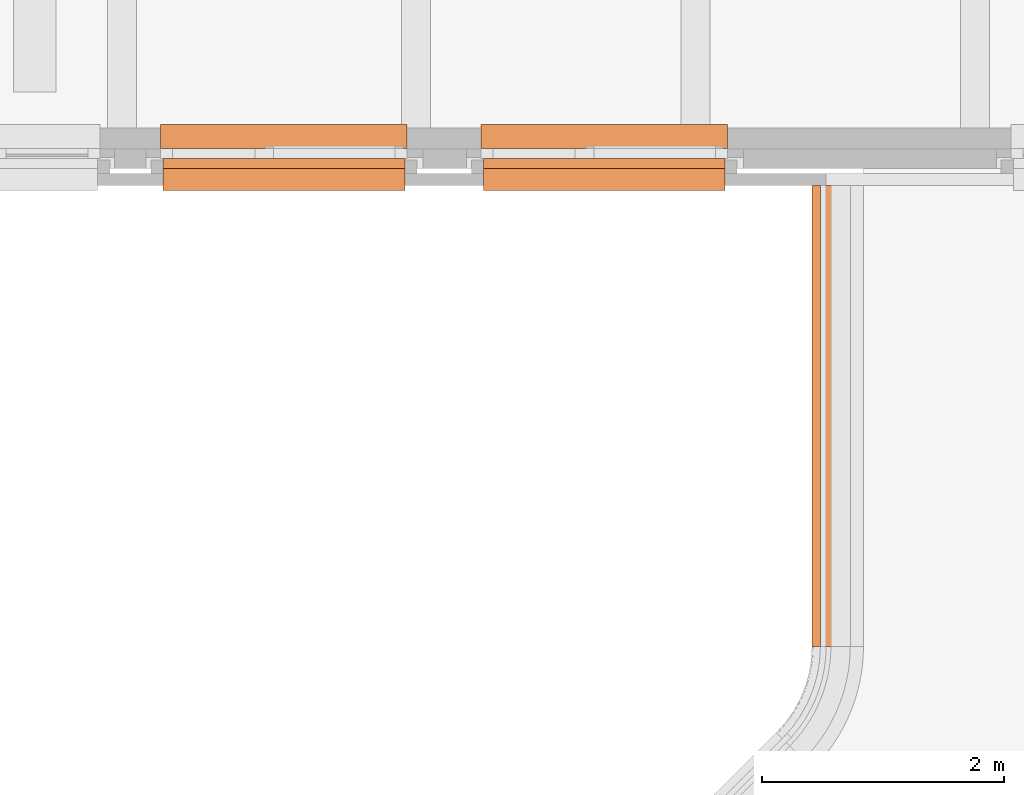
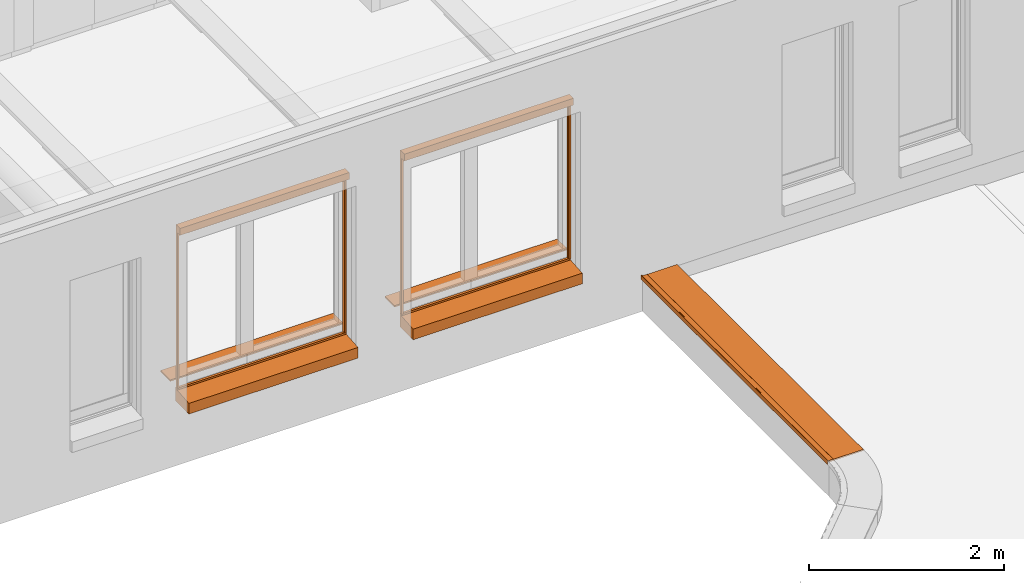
# One storey, part 115 of 128: 8 proxies.
"""IFC2X3 building model written with IfcOpenShell, lengths in millimetres."""

from ifc_helpers import new_model, entity, si_unit, converted_unit, derived_unit, direction, frame, frame_2d, origin, origin_2d_with_axis, place, context, subcontext, project, spatial, polyline, circle_curve, parameter, trimmed, segment, composite_curve, rectangle, outline, extrude, source, transform, mapped, material, material_list, type_object, type_shapes, element, save


model = new_model("IFC2X3")

# Units and contexts
model_context = context("Model", 3, precision=0.01, world=origin(), true_north=direction((6.123031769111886e-17, 1.0)))
body_context = subcontext(model_context, "Body", "Model", "MODEL_VIEW")
ifc_project = project(units=[si_unit("LENGTHUNIT", "METRE", prefix="MILLI"), si_unit("AREAUNIT", "SQUARE_METRE"), si_unit("VOLUMEUNIT", "CUBIC_METRE"), converted_unit("PLANEANGLEUNIT", "DEGREE", entity("IfcRatioMeasure", 0.017453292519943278), si_unit("PLANEANGLEUNIT", "RADIAN"), dimensions=[0, 0, 0, 0, 0, 0, 0]), si_unit("MASSUNIT", "GRAM", prefix="KILO"), derived_unit("MASSDENSITYUNIT", [(si_unit("MASSUNIT", "GRAM", prefix="KILO"), 1), (si_unit("LENGTHUNIT", "METRE"), -3)]), derived_unit("IONCONCENTRATIONUNIT", [(si_unit("MASSUNIT", "GRAM", prefix="KILO"), 1), (si_unit("LENGTHUNIT", "METRE"), -3)]), derived_unit("MOMENTOFINERTIAUNIT", [(si_unit("LENGTHUNIT", "METRE"), 4)]), si_unit("TIMEUNIT", "SECOND"), si_unit("FREQUENCYUNIT", "HERTZ"), si_unit("THERMODYNAMICTEMPERATUREUNIT", "DEGREE_CELSIUS"), derived_unit("THERMALTRANSMITTANCEUNIT", [(si_unit("MASSUNIT", "GRAM", prefix="KILO"), 1), (si_unit("THERMODYNAMICTEMPERATUREUNIT", "KELVIN"), -1), (si_unit("TIMEUNIT", "SECOND"), -3)]), derived_unit("THERMALCONDUCTANCEUNIT", [(si_unit("MASSUNIT", "GRAM", prefix="KILO"), 1), (si_unit("THERMODYNAMICTEMPERATUREUNIT", "KELVIN"), -1), (si_unit("TIMEUNIT", "SECOND"), -3), (si_unit("LENGTHUNIT", "METRE"), 1)]), derived_unit("VOLUMETRICFLOWRATEUNIT", [(si_unit("LENGTHUNIT", "METRE"), 3), (si_unit("TIMEUNIT", "SECOND"), -1)]), derived_unit("MASSFLOWRATEUNIT", [(si_unit("MASSUNIT", "GRAM", prefix="KILO"), 1), (si_unit("TIMEUNIT", "SECOND"), -1)]), derived_unit("ROTATIONALFREQUENCYUNIT", [(si_unit("TIMEUNIT", "SECOND"), -1)]), si_unit("ELECTRICCURRENTUNIT", "AMPERE"), si_unit("ELECTRICVOLTAGEUNIT", "VOLT"), si_unit("POWERUNIT", "WATT"), si_unit("FORCEUNIT", "NEWTON", prefix="KILO"), si_unit("ILLUMINANCEUNIT", "LUX"), si_unit("LUMINOUSFLUXUNIT", "LUMEN"), si_unit("LUMINOUSINTENSITYUNIT", "CANDELA"), derived_unit("USERDEFINED", [(si_unit("MASSUNIT", "GRAM", prefix="KILO"), -1), (si_unit("LENGTHUNIT", "METRE"), -2), (si_unit("TIMEUNIT", "SECOND"), 3), (si_unit("LUMINOUSFLUXUNIT", "LUMEN"), 1)]), derived_unit("USERDEFINED", [(si_unit("MASSUNIT", "GRAM", prefix="KILO"), 1), (si_unit("TIMEUNIT", "SECOND"), -3), (si_unit("LENGTHUNIT", "METRE"), 3), (si_unit("ELECTRICCURRENTUNIT", "AMPERE"), -2)]), derived_unit("SOUNDPOWERUNIT", [(si_unit("MASSUNIT", "GRAM", prefix="KILO"), 1), (si_unit("TIMEUNIT", "SECOND"), -3), (si_unit("LENGTHUNIT", "METRE"), 2)]), derived_unit("SOUNDPRESSUREUNIT", [(si_unit("MASSUNIT", "GRAM", prefix="KILO"), 1), (si_unit("LENGTHUNIT", "METRE"), -1), (si_unit("TIMEUNIT", "SECOND"), -2)]), derived_unit("LINEARVELOCITYUNIT", [(si_unit("LENGTHUNIT", "METRE"), 1), (si_unit("TIMEUNIT", "SECOND"), -1)]), si_unit("PRESSUREUNIT", "PASCAL"), derived_unit("USERDEFINED", [(si_unit("MASSUNIT", "GRAM", prefix="KILO"), 1), (si_unit("LENGTHUNIT", "METRE"), -2), (si_unit("TIMEUNIT", "SECOND"), -2)]), derived_unit("LINEARFORCEUNIT", [(si_unit("MASSUNIT", "GRAM", prefix="KILO"), 1), (si_unit("TIMEUNIT", "SECOND"), -2)]), derived_unit("PLANARFORCEUNIT", [(si_unit("MASSUNIT", "GRAM", prefix="KILO"), 1), (si_unit("LENGTHUNIT", "METRE"), -1), (si_unit("TIMEUNIT", "SECOND"), -2)]), derived_unit("SPECIFICHEATCAPACITYUNIT", [(si_unit("THERMODYNAMICTEMPERATUREUNIT", "KELVIN"), -1), (si_unit("LENGTHUNIT", "METRE"), 2), (si_unit("TIMEUNIT", "SECOND"), -2)]), derived_unit("HEATINGVALUEUNIT", [(si_unit("LENGTHUNIT", "METRE"), 2), (si_unit("TIMEUNIT", "SECOND"), -2)]), derived_unit("VAPORPERMEABILITYUNIT", [(si_unit("LENGTHUNIT", "METRE"), -1), (si_unit("TIMEUNIT", "SECOND"), 1)]), derived_unit("DYNAMICVISCOSITYUNIT", [(si_unit("MASSUNIT", "GRAM", prefix="KILO"), 1), (si_unit("TIMEUNIT", "SECOND"), -1), (si_unit("LENGTHUNIT", "METRE"), -1)]), derived_unit("THERMALEXPANSIONCOEFFICIENTUNIT", [(si_unit("THERMODYNAMICTEMPERATUREUNIT", "KELVIN"), -1)]), derived_unit("MODULUSOFELASTICITYUNIT", [(si_unit("MASSUNIT", "GRAM", prefix="KILO"), 1), (si_unit("LENGTHUNIT", "METRE"), -1), (si_unit("TIMEUNIT", "SECOND"), -2)]), derived_unit("ISOTHERMALMOISTURECAPACITYUNIT", [(si_unit("LENGTHUNIT", "METRE"), 3), (si_unit("MASSUNIT", "GRAM", prefix="KILO"), -1)]), derived_unit("MOISTUREDIFFUSIVITYUNIT", [(si_unit("TIMEUNIT", "SECOND"), -1), (si_unit("LENGTHUNIT", "METRE"), 2)])], contexts=[model_context])

# Site, building, storey
site_placement = place(None, frame((0.0, 300.0, 0.0)))
site = spatial("IfcSite", under=ifc_project, at=site_placement, Name="<Kadastrale nummers>", CompositionType="ELEMENT")
building_placement = place(site_placement, origin())
building = spatial("IfcBuilding", under=site, at=building_placement, CompositionType="ELEMENT")
storey_placement = place(building_placement, frame((0.0, 0.0, 3560.0000331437)))
storey = spatial("IfcBuildingStorey", under=building, at=storey_placement, Name="01 eerste verdieping", CompositionType="ELEMENT", Elevation=3560.0000331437)

# Proxies
ifc_material_1 = material(Name="ISR_Multiplex")
building_element_proxy_type_1 = type_object("IfcBuildingElementProxyType", Name="NLRS_42_GM_WBP_plaat:18x409", PredefinedType="NOTDEFINED", material=ifc_material_1)
shared_shape_1 = source(origin(), body_context, "Body", "SweptSolid", [
    extrude(rectangle(XDim=3813.09683106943, YDim=408.99999999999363, at=frame_2d((-4.433786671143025e-12, -2.1600499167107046e-12), x_axis=(1.0, 0.0))), frame((31629.50000000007, 35818.451584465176, 4075.0), z_axis=(0.0, 0.0, 1.0), x_axis=(0.0, 1.0, 0.0)), (0.0, 0.0, 1.0), 18.000000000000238),
])
type_shapes(building_element_proxy_type_1, [shared_shape_1])
proxy_1_placement = place(storey_placement, frame((0.0, 0.0, -3560.0000331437)))
element("IfcBuildingElementProxy", 1, at=proxy_1_placement, inside=storey, type_object=building_element_proxy_type_1, material=ifc_material_1, Name="NLRS_42_GM_WBP_plaat:18x409", ObjectType="NLRS_42_GM_WBP_plaat:18x409", context=body_context, shape_type="MappedRepresentation", body=[
    mapped(shared_shape_1, transform((0.0, 0.0, 0.0), scale=1.0)),
])
ifc_material_2 = material(Name="STAAL_RAL 7006")
building_element_proxy_type_2 = type_object("IfcBuildingElementProxyType", Name="NLRS_42_GM_WPB_dakrand_gen_ISR:dakrand_gen", PredefinedType="NOTDEFINED", material=ifc_material_2)
shared_shape_2 = source(origin(), body_context, "Body", "SweptSolid", [
    extrude(outline(composite_curve([segment(trimmed(circle_curve(frame_2d((14.558406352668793, -7.057262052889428), x_axis=(-1.0, 0.0)), 1.0000000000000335), [parameter(359.9999999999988)], [parameter(89.99999999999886)], True, "PARAMETER"), False, "CONTINUOUS"), segment(polyline([(13.558406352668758, -7.057262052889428), (13.558406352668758, 55.442737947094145)]), True, "CONTINUOUS"), segment(polyline([(13.558406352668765, 55.44273794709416), (12.55840635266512, 59.942737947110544)]), True, "CONTINUOUS"), segment(trimmed(circle_curve(frame_2d((12.05840635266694, 59.94273794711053), x_axis=(-1.0, 0.0)), 0.499999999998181), [parameter(180.00000000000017)], [parameter(0.0)], True, "PARAMETER"), True, "CONTINUOUS"), segment(polyline([(11.558406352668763, 59.94273794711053), (11.558406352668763, -2.057262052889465)]), True, "CONTINUOUS"), segment(trimmed(circle_curve(frame_2d((10.558406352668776, -2.0572620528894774), x_axis=(0.0, -1.0)), 0.9999999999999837), [parameter(1.8828883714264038e-12)], [parameter(90.00000000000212)], True, "PARAMETER"), False, "CONTINUOUS"), segment(polyline([(10.55840635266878, -3.0572620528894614), (9.558406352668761, -3.0572620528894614)]), True, "CONTINUOUS"), segment(trimmed(circle_curve(frame_2d((9.55840635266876, -4.057262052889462), x_axis=(0.0, -1.0)), 1.0), [parameter(180.00000000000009)], [parameter(359.9999999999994)], True, "PARAMETER"), True, "CONTINUOUS"), segment(polyline([(9.558406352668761, -5.057262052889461), (10.558406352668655, -5.057262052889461)]), True, "CONTINUOUS"), segment(trimmed(circle_curve(frame_2d((10.558406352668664, -6.057262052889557), x_axis=(1.0, 0.0)), 1.0000000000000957), [parameter(359.9999999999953)], [parameter(89.99999999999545)], True, "PARAMETER"), False, "CONTINUOUS"), segment(polyline([(11.558406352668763, -6.057262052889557), (11.558406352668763, -7.057262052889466)]), True, "CONTINUOUS"), segment(trimmed(circle_curve(frame_2d((10.558406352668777, -7.057262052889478), x_axis=(0.0, -1.0)), 0.999999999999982), [parameter(1.3739996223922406e-12)], [parameter(90.00000000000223)], True, "PARAMETER"), False, "CONTINUOUS"), segment(polyline([(10.558406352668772, -8.057262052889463), (-12.441593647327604, -8.057262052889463)]), True, "CONTINUOUS"), segment(trimmed(circle_curve(frame_2d((-12.441593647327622, -7.057262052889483), x_axis=(-1.0, 0.0)), 0.9999999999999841), [parameter(1.8828883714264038e-12)], [parameter(90.00000000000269)], True, "PARAMETER"), False, "CONTINUOUS"), segment(polyline([(-13.441593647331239, -7.057262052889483), (-13.441593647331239, -6.0572620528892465)]), True, "CONTINUOUS"), segment(trimmed(circle_curve(frame_2d((-12.44159364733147, -6.057262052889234), x_axis=(0.0, 1.0)), 0.9999999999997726), [parameter(1.353644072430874e-11)], [parameter(90.00000000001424)], True, "PARAMETER"), False, "CONTINUOUS"), segment(polyline([(-12.441593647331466, -5.057262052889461), (-11.441593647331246, -5.057262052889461)]), True, "CONTINUOUS"), segment(trimmed(circle_curve(frame_2d((-11.441593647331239, -4.057262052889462), x_axis=(0.0, 1.0)), 1.0), [parameter(179.99999999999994)], [parameter(359.9999999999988)], True, "PARAMETER"), True, "CONTINUOUS"), segment(polyline([(-11.441593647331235, -3.0572620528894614), (-14.441593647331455, -3.0572620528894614)]), True, "CONTINUOUS"), segment(trimmed(circle_curve(frame_2d((-14.441593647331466, -4.057262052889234), x_axis=(-1.0, 0.0)), 0.9999999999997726), [parameter(269.9999999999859)], [parameter(359.99999999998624)], True, "PARAMETER"), True, "CONTINUOUS"), segment(polyline([(-15.4415936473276, -4.057262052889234), (-15.4415936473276, -7.057262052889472)]), True, "CONTINUOUS"), segment(trimmed(circle_curve(frame_2d((-16.441593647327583, -7.0572620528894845), x_axis=(0.0, -1.0)), 0.9999999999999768), [parameter(2.1882216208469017e-12)], [parameter(90.00000000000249)], True, "PARAMETER"), False, "CONTINUOUS"), segment(polyline([(-16.44159364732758, -8.057262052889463), (-25.5319175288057, -8.057262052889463)]), True, "CONTINUOUS"), segment(trimmed(circle_curve(frame_2d((-25.531917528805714, -7.057262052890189), x_axis=(-0.9659258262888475, 0.2588190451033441)), 0.999999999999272), [parameter(7.394153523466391e-11)], [parameter(105.00000000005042)], True, "PARAMETER"), False, "CONTINUOUS"), segment(polyline([(-26.49784335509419, -6.798443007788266), (-24.494754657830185, 0.6771857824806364)]), True, "CONTINUOUS"), segment(trimmed(circle_curve(frame_2d((-25.460680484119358, 0.9360048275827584), x_axis=(-0.9659258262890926, 0.2588190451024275)), 1.0000000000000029), [parameter(180.0000000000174)], [parameter(8.142219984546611e-12)], True, "PARAMETER"), True, "CONTINUOUS"), segment(polyline([(-26.426606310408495, 1.1948238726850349), (-29.104294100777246, -8.79844300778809)]), True, "CONTINUOUS"), segment(trimmed(circle_curve(frame_2d((-28.138368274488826, -9.05726205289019), x_axis=(0.0, -1.0)), 0.9999999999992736), [parameter(255.000000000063)], [parameter(4.8700653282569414e-11)], True, "PARAMETER"), True, "CONTINUOUS"), segment(polyline([(-28.138368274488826, -10.057262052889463), (24.558406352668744, -10.057262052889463)]), True, "CONTINUOUS"), segment(trimmed(circle_curve(frame_2d((24.55840635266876, -9.057262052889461), x_axis=(1.0, 0.0)), 0.999999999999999), [parameter(269.9999999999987)], [parameter(359.99999999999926)], True, "PARAMETER"), True, "CONTINUOUS"), segment(polyline([(25.55840635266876, -9.057262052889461), (25.55840635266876, 0.9427379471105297)]), True, "CONTINUOUS"), segment(trimmed(circle_curve(frame_2d((24.55840635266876, 0.9427379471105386), x_axis=(-1.0, 0.0)), 1.000000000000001), [parameter(179.99999999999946)], [parameter(359.99999999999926)], True, "PARAMETER"), True, "CONTINUOUS"), segment(polyline([(23.55840635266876, 0.9427379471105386), (23.55840635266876, -7.057262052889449)]), True, "CONTINUOUS"), segment(trimmed(circle_curve(frame_2d((22.55840635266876, -7.057262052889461), x_axis=(0.0, -1.0)), 1.0), [parameter(2.544443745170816e-13)], [parameter(90.00000000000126)], True, "PARAMETER"), False, "CONTINUOUS"), segment(polyline([(22.55840635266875, -8.057262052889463), (14.558406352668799, -8.057262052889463)]), True, "CONTINUOUS")], self_intersect=False)), frame((-1906.548415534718, 10.05726205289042, -11.558406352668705), z_axis=(-1.0, 0.0, 0.0), x_axis=(0.0, 0.0, 1.0)), (0.0, 0.0, -1.0), 3813.096831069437),
])
type_shapes(building_element_proxy_type_2, [shared_shape_2])
proxy_2_placement = place(storey_placement, frame((31408.0, 35818.45158446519, 532.9999668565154), z_axis=(0.0, 0.0, 1.0), x_axis=(0.0, -1.0, 0.0)))
element("IfcBuildingElementProxy", 2, at=proxy_2_placement, inside=storey, type_object=building_element_proxy_type_2, material=ifc_material_2, Name="NLRS_42_GM_WPB_dakrand_gen_ISR:dakrand_gen", ObjectType="NLRS_42_GM_WPB_dakrand_gen_ISR:dakrand_gen", context=body_context, shape_type="MappedRepresentation", body=[
    mapped(shared_shape_2, transform((0.0, 0.0, 0.0), scale=1.0)),
])
ifc_material_3 = material(Name="ISR_Beton_prefab")
building_element_proxy_type_3 = type_object("IfcBuildingElementProxyType", Name="29_DAT_Prefab betonnen waterslag kort:29_DAT_Prefab betonnen waterslag kort", PredefinedType="NOTDEFINED", material=ifc_material_3)
shared_shape_3 = source(origin(), body_context, "Body", "SweptSolid", [
    extrude(outline(composite_curve([segment(polyline([(-137.5, -95.62465990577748), (-107.49999999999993, -95.62465990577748)]), True, "CONTINUOUS"), segment(polyline([(-107.49999999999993, -95.62465990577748), (-107.49999999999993, -73.62465990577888)]), True, "CONTINUOUS"), segment(polyline([(-107.49999999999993, -73.62465990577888), (132.50000000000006, -52.627380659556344)]), True, "CONTINUOUS"), segment(polyline([(132.5, -52.627380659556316), (132.5, 79.37534009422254)]), True, "CONTINUOUS"), segment(polyline([(132.5, 79.37534009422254), (117.49999999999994, 79.37534009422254)]), True, "CONTINUOUS"), segment(trimmed(circle_curve(frame_2d((112.49999999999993, 79.37534009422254), x_axis=(1.0, 0.0)), 5.000000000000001), [parameter(179.99999999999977)], [parameter(359.9999999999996)], True, "PARAMETER"), False, "CONTINUOUS"), segment(polyline([(107.49999999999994, 79.37534009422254), (-137.5, 79.37534009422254)]), True, "CONTINUOUS"), segment(polyline([(-137.5, 79.37534009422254), (-137.5, -95.62465990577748)]), True, "CONTINUOUS")], self_intersect=False)), frame((0.0, 82.50000000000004, -95.62465990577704), z_axis=(1.0, 0.0, 0.0), x_axis=(0.0, -1.0, 0.0)), (0.0, 0.0, 1.0), 2000.0000000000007),
])
type_shapes(building_element_proxy_type_3, [shared_shape_3])
for number, where, name in (
    (3, (28690.0, 37735.0, 890.000001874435), "29_DAT_Prefab betonnen waterslag kort:29_DAT_Prefab betonnen waterslag kort"),
    (4, (26040.0, 37735.0, 890.0000018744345), "29_DAT_Prefab betonnen waterslag kort:29_DAT_Prefab betonnen waterslag kort"),
):
    element("IfcBuildingElementProxy", number, at=place(storey_placement, frame(where)), inside=storey, type_object=building_element_proxy_type_3, material=ifc_material_3, Name=name, ObjectType="29_DAT_Prefab betonnen waterslag kort:29_DAT_Prefab betonnen waterslag kort", context=body_context, shape_type="MappedRepresentation", body=[
        mapped(shared_shape_3, transform((0.0, 0.0, 0.0), scale=1.0)),
    ])
ifc_material_4 = material(Name="<Unnamed>")
ifc_material_list = material_list([ifc_material_2, ifc_material_4])
building_element_proxy_type_4 = type_object("IfcBuildingElementProxyType", Name="31_DAT_Screen_zonwering_bak85:31_DAT_Screen_zonwering_bak85", PredefinedType="NOTDEFINED", material=ifc_material_list)
shared_shape_4 = source(origin(), body_context, "Body", "SweptSolid", [
    extrude(outline(polyline([(-60.69864841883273, -53.573897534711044), (20.695945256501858, -53.573897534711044), (20.695945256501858, 1.1216926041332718), (22.501351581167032, 1.1216926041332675), (22.501351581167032, 24.626102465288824), (17.501351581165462, 24.626102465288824), (17.501351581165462, 27.826102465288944), (-60.69864841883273, 27.826102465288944), (-60.69864841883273, -53.573897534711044)])), frame((1998.0, -29.62610246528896, 2422.501351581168), z_axis=(1.0, 0.0, 0.0), x_axis=(0.0, 0.0, -1.0)), (0.0, 0.0, 1.0), 1.9999999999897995),
    extrude(outline(polyline([(-55.83243227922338, -51.08259835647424), (29.167567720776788, -51.08259835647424), (29.167567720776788, 5.412991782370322), (27.362161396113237, 5.412991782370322), (27.362161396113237, -49.28259835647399), (-54.032432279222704, -49.28259835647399), (-54.032432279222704, 32.117401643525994), (24.16756772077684, 32.117401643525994), (24.16756772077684, 28.91740164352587), (29.167567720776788, 28.91740164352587), (29.167567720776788, 33.917401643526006), (-55.83243227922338, 33.917401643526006), (-55.83243227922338, -51.08259835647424)])), frame((0.0, -33.917401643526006, 2429.1675677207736), z_axis=(1.0, 0.0, 0.0), x_axis=(0.0, 0.0, -1.0)), (0.0, 0.0, 1.0), 1999.999999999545),
    extrude(outline(polyline([(-60.69864841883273, -53.573897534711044), (20.695945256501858, -53.573897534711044), (20.695945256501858, 1.1216926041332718), (22.501351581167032, 1.1216926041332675), (22.501351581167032, 24.626102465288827), (17.501351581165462, 24.626102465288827), (17.501351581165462, 27.826102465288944), (-60.69864841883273, 27.826102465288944), (-60.69864841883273, -53.573897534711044)])), frame((0.0, -29.62610246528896, 2422.501351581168), z_axis=(1.0, 0.0, 0.0), x_axis=(0.0, 0.0, -1.0)), (0.0, 0.0, 1.0), 1.999999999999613),
    extrude(rectangle(XDim=1959.9999999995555, YDim=1.163311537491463, at=frame_2d((0.0, -2.1094237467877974e-15), x_axis=(1.0, 0.0))), frame((1000.0, -20.037293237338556, 2382.3606486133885)), (0.0, 0.0, 1.0), 17.639351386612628),
    extrude(outline(composite_curve([segment(polyline([(-7.5023279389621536, -23.023758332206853), (7.4976720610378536, -23.023758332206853)]), True, "CONTINUOUS"), segment(trimmed(circle_curve(frame_2d((7.49767206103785, -21.523758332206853), x_axis=(0.0, -1.0)), 1.4999999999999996), [parameter(359.99999999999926)], [parameter(90.00000000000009)], True, "PARAMETER"), True, "CONTINUOUS"), segment(polyline([(8.997672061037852, -21.523758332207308), (8.997672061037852, 8.976241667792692)]), True, "CONTINUOUS"), segment(trimmed(circle_curve(frame_2d((5.9976720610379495, 8.976241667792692), x_axis=(0.0, -1.0)), 3.0), [parameter(90.00000000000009)], [parameter(172.84454900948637)], True, "PARAMETER"), True, "CONTINUOUS"), segment(polyline([(6.3713574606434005, 11.952877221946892), (2.2320908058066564, 12.470504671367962)]), True, "CONTINUOUS"), segment(trimmed(circle_curve(frame_2d((2.1399803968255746, 11.733933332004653), x_axis=(0.0, -1.0)), 0.7423083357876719), [parameter(172.87199730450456)], [parameter(323.5235343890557)], True, "PARAMETER"), True, "CONTINUOUS"), segment(trimmed(circle_curve(frame_2d((-0.002327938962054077, 8.976241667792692), x_axis=(0.0, -1.0)), 2.75), [parameter(217.47327986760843)], [parameter(141.78969998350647)], True, "PARAMETER"), False, "CONTINUOUS"), segment(trimmed(circle_curve(frame_2d((-2.1446362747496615, 11.733933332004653), x_axis=(0.0, -1.0)), 0.7423083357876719), [parameter(39.207114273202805)], [parameter(187.12800269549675)], True, "PARAMETER"), True, "CONTINUOUS"), segment(polyline([(-2.2367466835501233, 12.470504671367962), (-6.376013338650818, 11.952877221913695)]), True, "CONTINUOUS"), segment(trimmed(circle_curve(frame_2d((-6.002327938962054, 8.976241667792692), x_axis=(0.0, -1.0)), 3.0), [parameter(187.1554509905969)], [parameter(269.9999999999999)], True, "PARAMETER"), True, "CONTINUOUS"), segment(polyline([(-9.002327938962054, 8.976241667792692), (-9.002327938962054, -21.523758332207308)]), True, "CONTINUOUS"), segment(trimmed(circle_curve(frame_2d((-7.50232793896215, -21.523758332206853), x_axis=(0.0, -1.0)), 1.5000000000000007), [parameter(269.9999999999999)], [parameter(359.9999999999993)], True, "PARAMETER"), True, "CONTINUOUS")], self_intersect=False)), frame((20.0, -19.997672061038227, 2375.3844069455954), z_axis=(1.0, 0.0, 0.0), x_axis=(0.0, 1.0, 0.0)), (0.0, 0.0, 1.0), 1959.999999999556),
    extrude(outline(polyline([(-14.638298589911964, -16.231574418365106), (-13.138298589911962, -16.231574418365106), (-13.138298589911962, 12.23272922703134), (-6.116685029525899, 12.23272922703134), (-6.116685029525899, -6.231574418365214), (-1.116685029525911, -6.231574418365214), (-1.116685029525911, -4.769580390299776), (-4.579546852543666, -4.769580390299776), (-4.579546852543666, 12.23272922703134), (13.86611127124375, 12.23272922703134), (13.86611127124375, -4.769580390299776), (10.36170141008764, -4.769580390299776), (10.36170141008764, -6.2315744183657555), (15.36170141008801, -6.2315744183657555), (15.36170141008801, 13.7684255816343), (-14.638298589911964, 13.7684255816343), (-14.638298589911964, -16.231574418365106)])), frame((1986.2315744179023, -14.638298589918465, 450.0), z_axis=(0.0, 0.0, 1.0), x_axis=(0.0, -1.0, 0.0)), (0.0, 0.0, 1.0), 1950.0000000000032),
    extrude(outline(polyline([(-16.231574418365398, -14.638298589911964), (13.768425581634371, -14.638298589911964), (13.76842558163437, 15.361701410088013), (-6.231574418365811, 15.361701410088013), (-6.231574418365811, 10.361701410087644), (-4.769580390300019, 10.361701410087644), (-4.769580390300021, 13.866111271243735), (12.2327292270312, 13.866111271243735), (12.2327292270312, -4.57954685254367), (-4.769580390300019, -4.57954685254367), (-4.769580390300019, -1.1166850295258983), (-6.231574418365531, -1.1166850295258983), (-6.231574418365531, -6.116685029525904), (12.232729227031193, -6.116685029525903), (12.232729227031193, -13.138298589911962), (-16.231574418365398, -13.138298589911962), (-16.231574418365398, -14.638298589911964)])), frame((13.768425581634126, -14.638298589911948, 450.0), z_axis=(0.0, 0.0, 1.0), x_axis=(-1.0, 0.0, 0.0)), (0.0, 0.0, 1.0), 1950.0000000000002),
])
type_shapes(building_element_proxy_type_4, [shared_shape_4])
for number, where, name in (
    (5, (28690.0, 37948.99862327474, 440.0000018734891), "31_DAT_Screen_zonwering_bak85:31_DAT_Screen_zonwering_bak85"),
    (6, (26040.0, 37948.99862327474, 440.0000018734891), "31_DAT_Screen_zonwering_bak85:31_DAT_Screen_zonwering_bak85"),
):
    element("IfcBuildingElementProxy", number, at=place(storey_placement, frame(where)), inside=storey, type_object=building_element_proxy_type_4, material=ifc_material_list, Name=name, ObjectType="31_DAT_Screen_zonwering_bak85:31_DAT_Screen_zonwering_bak85", context=body_context, shape_type="MappedRepresentation", body=[
        mapped(shared_shape_4, transform((0.0, 0.0, 0.0), scale=1.0)),
    ])
ifc_material_5 = material(Name="e1_natuursteen")
building_element_proxy_type_5 = type_object("IfcBuildingElementProxyType", Name="NLRS_31_GM_WPB_vensterbank natuursteen -SH_gen_ASN:200x18", PredefinedType="USERDEFINED", material=ifc_material_5)
shared_shape_5 = source(origin(), body_context, "Body", "SweptSolid", [
    extrude(rectangle(XDim=200.0, YDim=2040.0000000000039, at=origin_2d_with_axis()), frame((0.0, -100.0, 0.0), z_axis=(0.0, 0.0, 1.0), x_axis=(0.0, -1.0, 0.0)), (0.0, 0.0, 1.0), 17.999999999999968),
])
type_shapes(building_element_proxy_type_5, [shared_shape_5])
for number, where, z_axis, x_axis, name in (
    (7, (29690.0, 38030.0, 920.0000018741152), (0.0, 0.0, 1.0), (-1.0, 0.0, 0.0), "NLRS_31_GM_WPB_vensterbank natuursteen -SH_gen_ASN:200x18"),
    (8, (27040.0, 38030.0, 920.0000018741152), (0.0, 0.0, 1.0), (-1.0, 0.0, 0.0), "NLRS_31_GM_WPB_vensterbank natuursteen -SH_gen_ASN:200x18"),
):
    element("IfcBuildingElementProxy", number, at=place(storey_placement, frame(where, z_axis=z_axis, x_axis=x_axis)), inside=storey, type_object=building_element_proxy_type_5, material=ifc_material_5, Name=name, ObjectType="NLRS_31_GM_WPB_vensterbank natuursteen -SH_gen_ASN:200x18", context=body_context, shape_type="MappedRepresentation", body=[
        mapped(shared_shape_5, transform((0.0, 0.0, 0.0), scale=1.0)),
    ])

save(model, "model.ifc")
